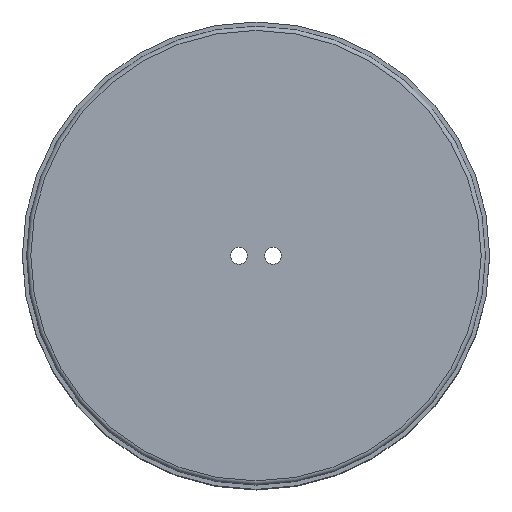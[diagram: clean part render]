
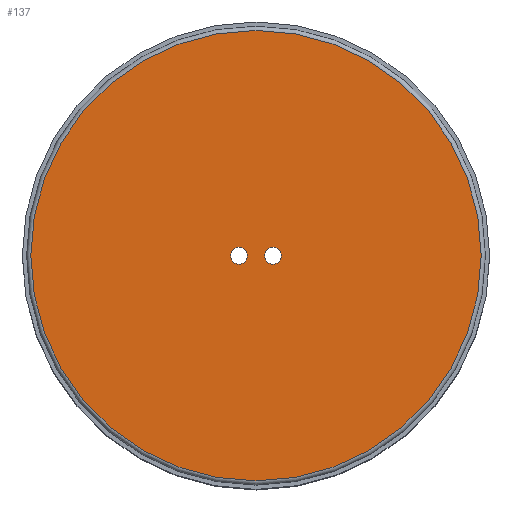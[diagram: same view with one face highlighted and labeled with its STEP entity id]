
A CAD part, top view. The second image highlights one B-rep face of the part: STEP entity #137.
In plain terms, the highlighted planar face has unit normal (0, 0, 1).
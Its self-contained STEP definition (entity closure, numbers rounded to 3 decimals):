
#137 = ADVANCED_FACE( '', ( #274, #275, #276 ), #277, .T. );
#274 = FACE_BOUND( '', #406, .T. );
#275 = FACE_BOUND( '', #407, .T. );
#276 = FACE_OUTER_BOUND( '', #408, .T. );
#277 = PLANE( '', #409 );
#406 = EDGE_LOOP( '', ( #568 ) );
#407 = EDGE_LOOP( '', ( #569 ) );
#408 = EDGE_LOOP( '', ( #570 ) );
#409 = AXIS2_PLACEMENT_3D( '', #571, #572, #573 );
#568 = ORIENTED_EDGE( '', *, *, #663, .F. );
#569 = ORIENTED_EDGE( '', *, *, #665, .F. );
#570 = ORIENTED_EDGE( '', *, *, #629, .T. );
#571 = CARTESIAN_POINT( '', ( -27., 0., 18. ) );
#572 = DIRECTION( '', ( 0., 0., 1. ) );
#573 = DIRECTION( '', ( 1., 0., 0. ) );
#629 = EDGE_CURVE( '', #695, #695, #696, .T. );
#663 = EDGE_CURVE( '', #747, #747, #748, .T. );
#665 = EDGE_CURVE( '', #750, #750, #751, .T. );
#695 = VERTEX_POINT( '', #784 );
#696 = CIRCLE( '', #785, 26.5 );
#747 = VERTEX_POINT( '', #836 );
#748 = CIRCLE( '', #837, 1. );
#750 = VERTEX_POINT( '', #839 );
#751 = CIRCLE( '', #840, 1. );
#784 = CARTESIAN_POINT( '', ( 26.5, 0., 18. ) );
#785 = AXIS2_PLACEMENT_3D( '', #875, #876, #877 );
#836 = CARTESIAN_POINT( '', ( 3., 0., 18. ) );
#837 = AXIS2_PLACEMENT_3D( '', #929, #930, #931 );
#839 = CARTESIAN_POINT( '', ( -1., 0., 18. ) );
#840 = AXIS2_PLACEMENT_3D( '', #932, #933, #934 );
#875 = CARTESIAN_POINT( '', ( 0., 0., 18. ) );
#876 = DIRECTION( '', ( 0., 0., 1. ) );
#877 = DIRECTION( '', ( 1., 0., 0. ) );
#929 = CARTESIAN_POINT( '', ( 2., 0., 18. ) );
#930 = DIRECTION( '', ( 0., 0., 1. ) );
#931 = DIRECTION( '', ( 1., 0., 0. ) );
#932 = CARTESIAN_POINT( '', ( -2., 0., 18. ) );
#933 = DIRECTION( '', ( 0., 0., 1. ) );
#934 = DIRECTION( '', ( 1., 0., 0. ) );
